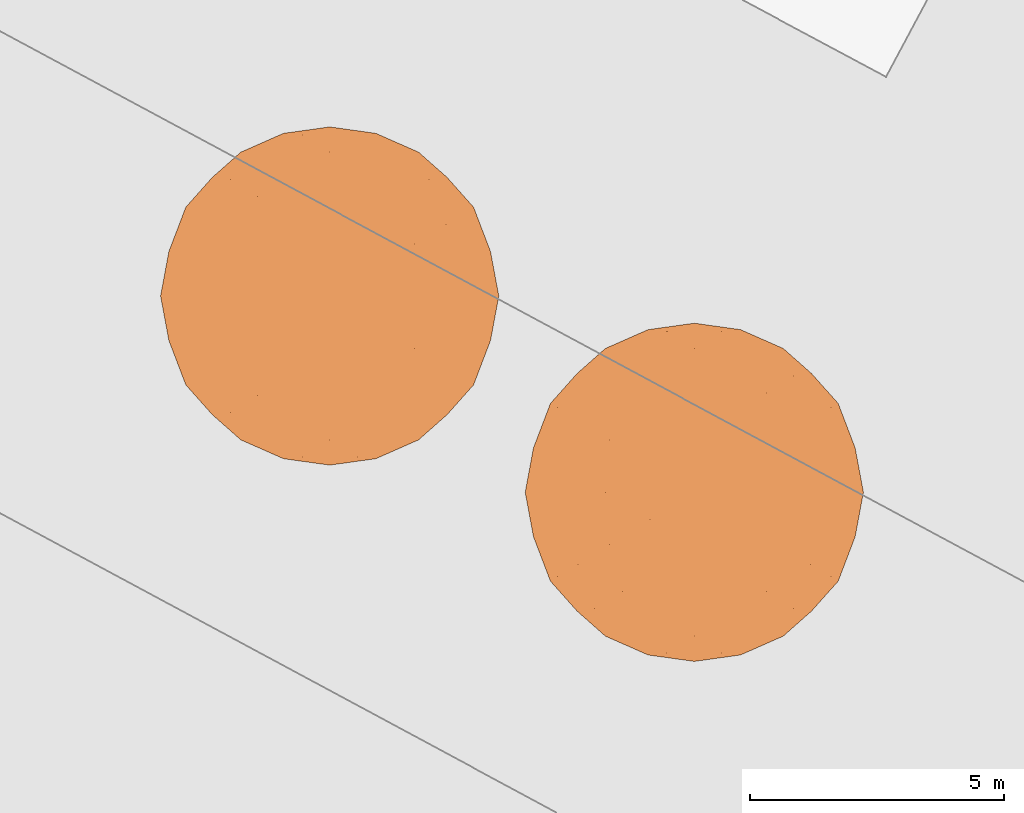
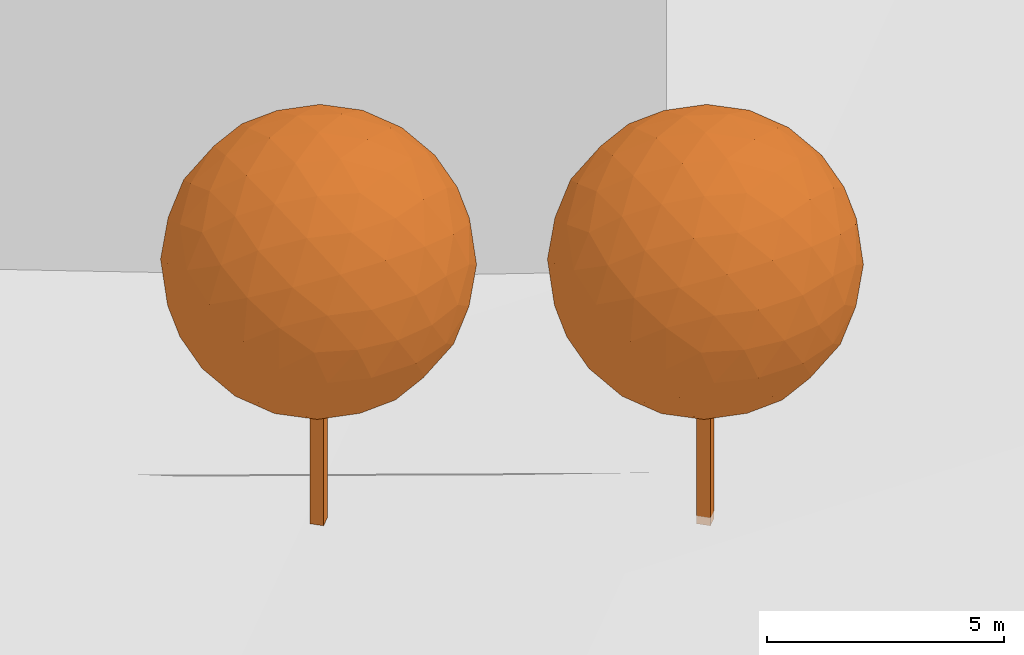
# Not in any storey, part 72 of 76: 2 proxies.
"""IFC2X3 model written with IfcOpenShell, lengths in metres."""

from ifc_helpers import new_model, si_unit, frame, origin_with_axes, place, context, subcontext, project, faceted_brep, element, save


model = new_model("IFC2X3")

# Units and contexts
model_context = context("Model", 3, precision=1e-05, world=origin_with_axes())
body_context = subcontext(model_context, "Body", "Model", "MODEL_VIEW")
ifc_project = project(units=[si_unit("AREAUNIT", "SQUARE_METRE"), si_unit("LENGTHUNIT", "METRE")], contexts=[model_context])

# Proxies
proxy_1_placement = place(None, frame((265.4333514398, 114.5949233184, 19.4436184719), z_axis=(0.0, 0.0, 1.0), x_axis=(1.0, 0.0, 0.0)))
element("IfcBuildingElementProxy", 1, at=proxy_1_placement, Name="Arbre TR2 CD66", ObjectType="NOTDEFINED", context=body_context, shape_type="Brep", body=[
    faceted_brep([(0.0, 0.2122065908, 0.0), (0.2122065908, 0.0, 0.0), (0.0, -0.2122065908, 0.0), (-0.2122065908, 0.0, 0.0), (0.0, -0.2122065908, 6.6666666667), (0.2122065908, 0.0, 6.6666666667), (0.0, 0.2122065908, 6.6666666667), (-0.2122065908, 0.0, 6.6666666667)], [[[0, 1, 2]], [[2, 3, 0]], [[4, 5, 6]], [[6, 7, 4]], [[4, 7, 2]], [[2, 7, 3]], [[7, 6, 3]], [[3, 6, 0]], [[5, 4, 1]], [[1, 4, 2]], [[6, 5, 0]], [[0, 5, 1]]]),
    faceted_brep([(-1.7524370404, 2.8355026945, 6.6666666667), (-2.3126015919, 2.3401548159, 7.2020734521), (-1.4462952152, 2.8755616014, 7.5329730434), (-2.6967233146, 1.6666666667, 7.6967233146), (-1.9592841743, 2.2939698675, 8.0844180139), (-1.0300566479, 2.6967233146, 8.3333333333), (-2.8755616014, 0.8663063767, 8.1129618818), (-2.2939698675, 1.4177513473, 8.625950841), (-2.8355026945, 0.0, 8.4191037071), (-2.3401548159, 0.5354067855, 8.9792682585), (-1.6666666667, 1.0300566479, 9.3633899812), (-1.4177513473, 1.9592841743, 8.9606365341), (-0.5354067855, 2.3126015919, 9.0068214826), (-0.8663063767, 1.4462952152, 9.5422282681), (0.0, 1.7524370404, 9.5021693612), (-0.9108884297, 3.2064611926, 6.6666666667), (-0.5415328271, 3.1701883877, 7.5428851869), (0.0, 3.3333333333, 6.6666666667), (0.0, 2.8355026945, 8.4191037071), (0.5354067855, 2.3126015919, 9.0068214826), (1.0300566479, 2.6967233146, 8.3333333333), (0.5415328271, 3.1701883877, 7.5428851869), (0.9108884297, 3.2064611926, 6.6666666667), (1.4462952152, 2.8755616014, 7.5329730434), (1.7524370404, 2.8355026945, 6.6666666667), (-1.4462952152, 2.8755616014, 5.80036029), (-0.5415328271, 3.1701883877, 5.7904481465), (-1.0300566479, 2.6967233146, 5.0), (0.5415328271, 3.1701883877, 5.7904481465), (1.4462952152, 2.8755616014, 5.80036029), (1.0300566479, 2.6967233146, 5.0), (0.0, 2.8355026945, 4.9142296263), (-0.5354067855, 2.3126015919, 4.3265118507), (0.5354067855, 2.3126015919, 4.3265118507), (0.0, 1.7524370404, 3.8311639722), (-2.3126015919, 2.3401548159, 6.1312598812), (-1.9592841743, 2.2939698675, 5.2489153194), (-2.6967233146, 1.6666666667, 5.6366100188), (-1.4177513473, 1.9592841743, 4.3726967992), (-0.8663063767, 1.4462952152, 3.7911050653), (-1.6666666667, 1.0300566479, 3.9699433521), (-2.2939698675, 1.4177513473, 4.7073824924), (-2.8755616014, 0.8663063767, 5.2203714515), (-2.3401548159, 0.5354067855, 4.3540650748), (-2.8355026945, 0.0, 4.9142296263), (-2.8355026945, 1.7524370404, 6.6666666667), (-3.1701883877, 0.8762185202, 6.1251338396), (-3.2064611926, 0.0, 5.755778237), (-3.3333333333, 0.0, 6.6666666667), (-3.1701883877, 0.8762185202, 7.2081994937), (-3.2064611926, 0.0, 7.5775550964), (2.3126015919, 2.3401548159, 7.2020734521), (1.9592841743, 2.2939698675, 8.0844180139), (2.6967233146, 1.6666666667, 7.6967233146), (1.4177513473, 1.9592841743, 8.9606365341), (0.8663063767, 1.4462952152, 9.5422282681), (1.6666666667, 1.0300566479, 9.3633899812), (2.2939698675, 1.4177513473, 8.625950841), (2.8755616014, 0.8663063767, 8.1129618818), (2.3401548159, 0.5354067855, 8.9792682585), (2.8355026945, 0.0, 8.4191037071), (0.0, 0.9108884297, 9.8731278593), (-0.8762185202, 0.5415328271, 9.8368550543), (0.0, 0.0, 10.0), (-1.7524370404, 0.0, 9.5021693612), (-2.3401548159, -0.5354067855, 8.9792682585), (-1.6666666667, -1.0300566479, 9.3633899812), (-0.8762185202, -0.5415328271, 9.8368550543), (0.0, -0.9108884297, 9.8731278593), (-0.8663063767, -1.4462952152, 9.5422282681), (0.0, -1.7524370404, 9.5021693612), (-2.8755616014, -0.8663063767, 8.1129618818), (-3.1701883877, -0.8762185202, 7.2081994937), (-2.6967233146, -1.6666666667, 7.6967233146), (-3.1701883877, -0.8762185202, 6.1251338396), (-2.8755616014, -0.8663063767, 5.2203714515), (-2.6967233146, -1.6666666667, 5.6366100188), (-2.8355026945, -1.7524370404, 6.6666666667), (-2.3126015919, -2.3401548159, 7.2020734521), (-2.3126015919, -2.3401548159, 6.1312598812), (-1.7524370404, -2.8355026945, 6.6666666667), (-2.3401548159, -0.5354067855, 4.3540650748), (-1.7524370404, 0.0, 3.8311639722), (-1.6666666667, -1.0300566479, 3.9699433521), (-0.8762185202, 0.5415328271, 3.496478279), (0.0, 0.9108884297, 3.4602054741), (0.0, 0.0, 3.3333333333), (-0.8762185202, -0.5415328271, 3.496478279), (-0.8663063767, -1.4462952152, 3.7911050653), (0.0, -0.9108884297, 3.4602054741), (0.0, -1.7524370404, 3.8311639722), (0.8663063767, 1.4462952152, 3.7911050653), (1.4177513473, 1.9592841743, 4.3726967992), (1.6666666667, 1.0300566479, 3.9699433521), (1.9592841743, 2.2939698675, 5.2489153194), (2.3126015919, 2.3401548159, 6.1312598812), (2.6967233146, 1.6666666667, 5.6366100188), (2.2939698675, 1.4177513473, 4.7073824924), (2.3401548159, 0.5354067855, 4.3540650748), (2.8755616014, 0.8663063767, 5.2203714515), (2.8355026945, 0.0, 4.9142296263), (1.7524370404, -2.8355026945, 6.6666666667), (2.3126015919, -2.3401548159, 7.2020734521), (1.4462952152, -2.8755616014, 7.5329730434), (2.6967233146, -1.6666666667, 7.6967233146), (1.9592841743, -2.2939698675, 8.0844180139), (1.0300566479, -2.6967233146, 8.3333333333), (2.8755616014, -0.8663063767, 8.1129618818), (2.2939698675, -1.4177513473, 8.625950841), (2.3401548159, -0.5354067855, 8.9792682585), (1.6666666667, -1.0300566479, 9.3633899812), (1.4177513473, -1.9592841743, 8.9606365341), (0.5354067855, -2.3126015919, 9.0068214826), (0.8663063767, -1.4462952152, 9.5422282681), (0.9108884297, -3.2064611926, 6.6666666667), (0.5415328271, -3.1701883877, 7.5428851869), (0.0, -3.3333333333, 6.6666666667), (0.0, -2.8355026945, 8.4191037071), (-0.5354067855, -2.3126015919, 9.0068214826), (-1.0300566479, -2.6967233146, 8.3333333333), (-0.5415328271, -3.1701883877, 7.5428851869), (-0.9108884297, -3.2064611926, 6.6666666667), (-1.4462952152, -2.8755616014, 7.5329730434), (1.4462952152, -2.8755616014, 5.80036029), (0.5415328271, -3.1701883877, 5.7904481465), (1.0300566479, -2.6967233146, 5.0), (-0.5415328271, -3.1701883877, 5.7904481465), (-1.4462952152, -2.8755616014, 5.80036029), (-1.0300566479, -2.6967233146, 5.0), (0.0, -2.8355026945, 4.9142296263), (0.5354067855, -2.3126015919, 4.3265118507), (-0.5354067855, -2.3126015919, 4.3265118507), (2.3126015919, -2.3401548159, 6.1312598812), (1.9592841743, -2.2939698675, 5.2489153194), (2.6967233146, -1.6666666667, 5.6366100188), (1.4177513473, -1.9592841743, 4.3726967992), (0.8663063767, -1.4462952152, 3.7911050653), (1.6666666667, -1.0300566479, 3.9699433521), (2.2939698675, -1.4177513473, 4.7073824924), (2.8755616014, -0.8663063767, 5.2203714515), (2.3401548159, -0.5354067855, 4.3540650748), (2.8355026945, -1.7524370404, 6.6666666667), (3.1701883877, -0.8762185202, 6.1251338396), (3.2064611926, 0.0, 5.755778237), (3.3333333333, 0.0, 6.6666666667), (3.1701883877, -0.8762185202, 7.2081994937), (3.2064611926, 0.0, 7.5775550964), (0.8762185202, -0.5415328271, 9.8368550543), (1.7524370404, 0.0, 9.5021693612), (0.8762185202, 0.5415328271, 9.8368550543), (-1.9592841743, -2.2939698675, 8.0844180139), (-1.4177513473, -1.9592841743, 8.9606365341), (-2.2939698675, -1.4177513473, 8.625950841), (-1.4177513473, -1.9592841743, 4.3726967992), (-1.9592841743, -2.2939698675, 5.2489153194), (-2.2939698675, -1.4177513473, 4.7073824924), (1.7524370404, 0.0, 3.8311639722), (0.8762185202, -0.5415328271, 3.496478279), (0.8762185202, 0.5415328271, 3.496478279), (3.1701883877, 0.8762185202, 7.2081994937), (3.1701883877, 0.8762185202, 6.1251338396), (2.8355026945, 1.7524370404, 6.6666666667)], [[[0, 1, 2]], [[1, 3, 4]], [[2, 4, 5]], [[1, 4, 2]], [[3, 6, 7]], [[6, 8, 9]], [[7, 9, 10]], [[6, 9, 7]], [[5, 11, 12]], [[11, 10, 13]], [[12, 13, 14]], [[11, 13, 12]], [[3, 7, 4]], [[7, 10, 11]], [[4, 11, 5]], [[7, 11, 4]], [[0, 2, 15]], [[2, 5, 16]], [[15, 16, 17]], [[2, 16, 15]], [[5, 12, 18]], [[12, 14, 19]], [[18, 19, 20]], [[12, 19, 18]], [[17, 21, 22]], [[21, 20, 23]], [[22, 23, 24]], [[21, 23, 22]], [[5, 18, 16]], [[18, 20, 21]], [[16, 21, 17]], [[18, 21, 16]], [[0, 15, 25]], [[15, 17, 26]], [[25, 26, 27]], [[15, 26, 25]], [[17, 22, 28]], [[22, 24, 29]], [[28, 29, 30]], [[22, 29, 28]], [[27, 31, 32]], [[31, 30, 33]], [[32, 33, 34]], [[31, 33, 32]], [[17, 28, 26]], [[28, 30, 31]], [[26, 31, 27]], [[28, 31, 26]], [[0, 25, 35]], [[25, 27, 36]], [[35, 36, 37]], [[25, 36, 35]], [[27, 32, 38]], [[32, 34, 39]], [[38, 39, 40]], [[32, 39, 38]], [[37, 41, 42]], [[41, 40, 43]], [[42, 43, 44]], [[41, 43, 42]], [[27, 38, 36]], [[38, 40, 41]], [[36, 41, 37]], [[38, 41, 36]], [[0, 35, 1]], [[35, 37, 45]], [[1, 45, 3]], [[35, 45, 1]], [[37, 42, 46]], [[42, 44, 47]], [[46, 47, 48]], [[42, 47, 46]], [[3, 49, 6]], [[49, 48, 50]], [[6, 50, 8]], [[49, 50, 6]], [[37, 46, 45]], [[46, 48, 49]], [[45, 49, 3]], [[46, 49, 45]], [[24, 23, 51]], [[23, 20, 52]], [[51, 52, 53]], [[23, 52, 51]], [[20, 19, 54]], [[19, 14, 55]], [[54, 55, 56]], [[19, 55, 54]], [[53, 57, 58]], [[57, 56, 59]], [[58, 59, 60]], [[57, 59, 58]], [[20, 54, 52]], [[54, 56, 57]], [[52, 57, 53]], [[54, 57, 52]], [[14, 13, 61]], [[13, 10, 62]], [[61, 62, 63]], [[13, 62, 61]], [[10, 9, 64]], [[9, 8, 65]], [[64, 65, 66]], [[9, 65, 64]], [[63, 67, 68]], [[67, 66, 69]], [[68, 69, 70]], [[67, 69, 68]], [[10, 64, 62]], [[64, 66, 67]], [[62, 67, 63]], [[64, 67, 62]], [[8, 50, 71]], [[50, 48, 72]], [[71, 72, 73]], [[50, 72, 71]], [[48, 47, 74]], [[47, 44, 75]], [[74, 75, 76]], [[47, 75, 74]], [[73, 77, 78]], [[77, 76, 79]], [[78, 79, 80]], [[77, 79, 78]], [[48, 74, 72]], [[74, 76, 77]], [[72, 77, 73]], [[74, 77, 72]], [[44, 43, 81]], [[43, 40, 82]], [[81, 82, 83]], [[43, 82, 81]], [[40, 39, 84]], [[39, 34, 85]], [[84, 85, 86]], [[39, 85, 84]], [[83, 87, 88]], [[87, 86, 89]], [[88, 89, 90]], [[87, 89, 88]], [[40, 84, 82]], [[84, 86, 87]], [[82, 87, 83]], [[84, 87, 82]], [[34, 33, 91]], [[33, 30, 92]], [[91, 92, 93]], [[33, 92, 91]], [[30, 29, 94]], [[29, 24, 95]], [[94, 95, 96]], [[29, 95, 94]], [[93, 97, 98]], [[97, 96, 99]], [[98, 99, 100]], [[97, 99, 98]], [[30, 94, 92]], [[94, 96, 97]], [[92, 97, 93]], [[94, 97, 92]], [[101, 102, 103]], [[102, 104, 105]], [[103, 105, 106]], [[102, 105, 103]], [[104, 107, 108]], [[107, 60, 109]], [[108, 109, 110]], [[107, 109, 108]], [[106, 111, 112]], [[111, 110, 113]], [[112, 113, 70]], [[111, 113, 112]], [[104, 108, 105]], [[108, 110, 111]], [[105, 111, 106]], [[108, 111, 105]], [[101, 103, 114]], [[103, 106, 115]], [[114, 115, 116]], [[103, 115, 114]], [[106, 112, 117]], [[112, 70, 118]], [[117, 118, 119]], [[112, 118, 117]], [[116, 120, 121]], [[120, 119, 122]], [[121, 122, 80]], [[120, 122, 121]], [[106, 117, 115]], [[117, 119, 120]], [[115, 120, 116]], [[117, 120, 115]], [[101, 114, 123]], [[114, 116, 124]], [[123, 124, 125]], [[114, 124, 123]], [[116, 121, 126]], [[121, 80, 127]], [[126, 127, 128]], [[121, 127, 126]], [[125, 129, 130]], [[129, 128, 131]], [[130, 131, 90]], [[129, 131, 130]], [[116, 126, 124]], [[126, 128, 129]], [[124, 129, 125]], [[126, 129, 124]], [[101, 123, 132]], [[123, 125, 133]], [[132, 133, 134]], [[123, 133, 132]], [[125, 130, 135]], [[130, 90, 136]], [[135, 136, 137]], [[130, 136, 135]], [[134, 138, 139]], [[138, 137, 140]], [[139, 140, 100]], [[138, 140, 139]], [[125, 135, 133]], [[135, 137, 138]], [[133, 138, 134]], [[135, 138, 133]], [[101, 132, 102]], [[132, 134, 141]], [[102, 141, 104]], [[132, 141, 102]], [[134, 139, 142]], [[139, 100, 143]], [[142, 143, 144]], [[139, 143, 142]], [[104, 145, 107]], [[145, 144, 146]], [[107, 146, 60]], [[145, 146, 107]], [[134, 142, 141]], [[142, 144, 145]], [[141, 145, 104]], [[142, 145, 141]], [[70, 113, 68]], [[113, 110, 147]], [[68, 147, 63]], [[113, 147, 68]], [[110, 109, 148]], [[109, 60, 59]], [[148, 59, 56]], [[109, 59, 148]], [[63, 149, 61]], [[149, 56, 55]], [[61, 55, 14]], [[149, 55, 61]], [[110, 148, 147]], [[148, 56, 149]], [[147, 149, 63]], [[148, 149, 147]], [[80, 122, 78]], [[122, 119, 150]], [[78, 150, 73]], [[122, 150, 78]], [[119, 118, 151]], [[118, 70, 69]], [[151, 69, 66]], [[118, 69, 151]], [[73, 152, 71]], [[152, 66, 65]], [[71, 65, 8]], [[152, 65, 71]], [[119, 151, 150]], [[151, 66, 152]], [[150, 152, 73]], [[151, 152, 150]], [[90, 131, 88]], [[131, 128, 153]], [[88, 153, 83]], [[131, 153, 88]], [[128, 127, 154]], [[127, 80, 79]], [[154, 79, 76]], [[127, 79, 154]], [[83, 155, 81]], [[155, 76, 75]], [[81, 75, 44]], [[155, 75, 81]], [[128, 154, 153]], [[154, 76, 155]], [[153, 155, 83]], [[154, 155, 153]], [[100, 140, 98]], [[140, 137, 156]], [[98, 156, 93]], [[140, 156, 98]], [[137, 136, 157]], [[136, 90, 89]], [[157, 89, 86]], [[136, 89, 157]], [[93, 158, 91]], [[158, 86, 85]], [[91, 85, 34]], [[158, 85, 91]], [[137, 157, 156]], [[157, 86, 158]], [[156, 158, 93]], [[157, 158, 156]], [[60, 146, 58]], [[146, 144, 159]], [[58, 159, 53]], [[146, 159, 58]], [[144, 143, 160]], [[143, 100, 99]], [[160, 99, 96]], [[143, 99, 160]], [[53, 161, 51]], [[161, 96, 95]], [[51, 95, 24]], [[161, 95, 51]], [[144, 160, 159]], [[160, 96, 161]], [[159, 161, 53]], [[160, 161, 159]]]),
])
proxy_2_placement = place(None, frame((272.6199640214, 110.7261496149, 19.2719039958), z_axis=(0.0, 0.0, 1.0), x_axis=(1.0, 0.0, 0.0)))
element("IfcBuildingElementProxy", 2, at=proxy_2_placement, Name="Arbre TR2 CD66", ObjectType="NOTDEFINED", context=body_context, shape_type="Brep", body=[
    faceted_brep([(0.0, 0.2122065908, 0.0), (0.2122065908, 0.0, 0.0), (0.0, -0.2122065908, 0.0), (-0.2122065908, 0.0, 0.0), (0.0, -0.2122065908, 6.6666666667), (0.2122065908, 0.0, 6.6666666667), (0.0, 0.2122065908, 6.6666666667), (-0.2122065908, 0.0, 6.6666666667)], [[[0, 1, 2]], [[2, 3, 0]], [[4, 5, 6]], [[6, 7, 4]], [[4, 7, 2]], [[2, 7, 3]], [[7, 6, 3]], [[3, 6, 0]], [[5, 4, 1]], [[1, 4, 2]], [[6, 5, 0]], [[0, 5, 1]]]),
    faceted_brep([(-1.7524370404, 2.8355026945, 6.6666666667), (-2.3126015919, 2.3401548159, 7.2020734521), (-1.4462952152, 2.8755616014, 7.5329730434), (-2.6967233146, 1.6666666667, 7.6967233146), (-1.9592841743, 2.2939698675, 8.0844180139), (-1.0300566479, 2.6967233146, 8.3333333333), (-2.8755616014, 0.8663063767, 8.1129618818), (-2.2939698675, 1.4177513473, 8.625950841), (-2.8355026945, 0.0, 8.4191037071), (-2.3401548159, 0.5354067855, 8.9792682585), (-1.6666666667, 1.0300566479, 9.3633899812), (-1.4177513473, 1.9592841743, 8.9606365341), (-0.5354067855, 2.3126015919, 9.0068214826), (-0.8663063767, 1.4462952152, 9.5422282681), (0.0, 1.7524370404, 9.5021693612), (-0.9108884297, 3.2064611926, 6.6666666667), (-0.5415328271, 3.1701883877, 7.5428851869), (0.0, 3.3333333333, 6.6666666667), (0.0, 2.8355026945, 8.4191037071), (0.5354067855, 2.3126015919, 9.0068214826), (1.0300566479, 2.6967233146, 8.3333333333), (0.5415328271, 3.1701883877, 7.5428851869), (0.9108884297, 3.2064611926, 6.6666666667), (1.4462952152, 2.8755616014, 7.5329730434), (1.7524370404, 2.8355026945, 6.6666666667), (-1.4462952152, 2.8755616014, 5.80036029), (-0.5415328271, 3.1701883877, 5.7904481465), (-1.0300566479, 2.6967233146, 5.0), (0.5415328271, 3.1701883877, 5.7904481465), (1.4462952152, 2.8755616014, 5.80036029), (1.0300566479, 2.6967233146, 5.0), (0.0, 2.8355026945, 4.9142296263), (-0.5354067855, 2.3126015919, 4.3265118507), (0.5354067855, 2.3126015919, 4.3265118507), (0.0, 1.7524370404, 3.8311639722), (-2.3126015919, 2.3401548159, 6.1312598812), (-1.9592841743, 2.2939698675, 5.2489153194), (-2.6967233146, 1.6666666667, 5.6366100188), (-1.4177513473, 1.9592841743, 4.3726967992), (-0.8663063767, 1.4462952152, 3.7911050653), (-1.6666666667, 1.0300566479, 3.9699433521), (-2.2939698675, 1.4177513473, 4.7073824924), (-2.8755616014, 0.8663063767, 5.2203714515), (-2.3401548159, 0.5354067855, 4.3540650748), (-2.8355026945, 0.0, 4.9142296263), (-2.8355026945, 1.7524370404, 6.6666666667), (-3.1701883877, 0.8762185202, 6.1251338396), (-3.2064611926, 0.0, 5.755778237), (-3.3333333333, 0.0, 6.6666666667), (-3.1701883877, 0.8762185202, 7.2081994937), (-3.2064611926, 0.0, 7.5775550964), (2.3126015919, 2.3401548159, 7.2020734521), (1.9592841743, 2.2939698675, 8.0844180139), (2.6967233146, 1.6666666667, 7.6967233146), (1.4177513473, 1.9592841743, 8.9606365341), (0.8663063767, 1.4462952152, 9.5422282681), (1.6666666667, 1.0300566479, 9.3633899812), (2.2939698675, 1.4177513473, 8.625950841), (2.8755616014, 0.8663063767, 8.1129618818), (2.3401548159, 0.5354067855, 8.9792682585), (2.8355026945, 0.0, 8.4191037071), (0.0, 0.9108884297, 9.8731278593), (-0.8762185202, 0.5415328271, 9.8368550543), (0.0, 0.0, 10.0), (-1.7524370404, 0.0, 9.5021693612), (-2.3401548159, -0.5354067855, 8.9792682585), (-1.6666666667, -1.0300566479, 9.3633899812), (-0.8762185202, -0.5415328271, 9.8368550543), (0.0, -0.9108884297, 9.8731278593), (-0.8663063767, -1.4462952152, 9.5422282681), (0.0, -1.7524370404, 9.5021693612), (-2.8755616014, -0.8663063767, 8.1129618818), (-3.1701883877, -0.8762185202, 7.2081994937), (-2.6967233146, -1.6666666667, 7.6967233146), (-3.1701883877, -0.8762185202, 6.1251338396), (-2.8755616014, -0.8663063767, 5.2203714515), (-2.6967233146, -1.6666666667, 5.6366100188), (-2.8355026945, -1.7524370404, 6.6666666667), (-2.3126015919, -2.3401548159, 7.2020734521), (-2.3126015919, -2.3401548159, 6.1312598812), (-1.7524370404, -2.8355026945, 6.6666666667), (-2.3401548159, -0.5354067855, 4.3540650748), (-1.7524370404, 0.0, 3.8311639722), (-1.6666666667, -1.0300566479, 3.9699433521), (-0.8762185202, 0.5415328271, 3.496478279), (0.0, 0.9108884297, 3.4602054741), (0.0, 0.0, 3.3333333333), (-0.8762185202, -0.5415328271, 3.496478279), (-0.8663063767, -1.4462952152, 3.7911050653), (0.0, -0.9108884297, 3.4602054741), (0.0, -1.7524370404, 3.8311639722), (0.8663063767, 1.4462952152, 3.7911050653), (1.4177513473, 1.9592841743, 4.3726967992), (1.6666666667, 1.0300566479, 3.9699433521), (1.9592841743, 2.2939698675, 5.2489153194), (2.3126015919, 2.3401548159, 6.1312598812), (2.6967233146, 1.6666666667, 5.6366100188), (2.2939698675, 1.4177513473, 4.7073824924), (2.3401548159, 0.5354067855, 4.3540650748), (2.8755616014, 0.8663063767, 5.2203714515), (2.8355026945, 0.0, 4.9142296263), (1.7524370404, -2.8355026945, 6.6666666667), (2.3126015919, -2.3401548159, 7.2020734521), (1.4462952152, -2.8755616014, 7.5329730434), (2.6967233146, -1.6666666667, 7.6967233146), (1.9592841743, -2.2939698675, 8.0844180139), (1.0300566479, -2.6967233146, 8.3333333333), (2.8755616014, -0.8663063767, 8.1129618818), (2.2939698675, -1.4177513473, 8.625950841), (2.3401548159, -0.5354067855, 8.9792682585), (1.6666666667, -1.0300566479, 9.3633899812), (1.4177513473, -1.9592841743, 8.9606365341), (0.5354067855, -2.3126015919, 9.0068214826), (0.8663063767, -1.4462952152, 9.5422282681), (0.9108884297, -3.2064611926, 6.6666666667), (0.5415328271, -3.1701883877, 7.5428851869), (0.0, -3.3333333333, 6.6666666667), (0.0, -2.8355026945, 8.4191037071), (-0.5354067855, -2.3126015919, 9.0068214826), (-1.0300566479, -2.6967233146, 8.3333333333), (-0.5415328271, -3.1701883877, 7.5428851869), (-0.9108884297, -3.2064611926, 6.6666666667), (-1.4462952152, -2.8755616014, 7.5329730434), (1.4462952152, -2.8755616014, 5.80036029), (0.5415328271, -3.1701883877, 5.7904481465), (1.0300566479, -2.6967233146, 5.0), (-0.5415328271, -3.1701883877, 5.7904481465), (-1.4462952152, -2.8755616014, 5.80036029), (-1.0300566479, -2.6967233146, 5.0), (0.0, -2.8355026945, 4.9142296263), (0.5354067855, -2.3126015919, 4.3265118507), (-0.5354067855, -2.3126015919, 4.3265118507), (2.3126015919, -2.3401548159, 6.1312598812), (1.9592841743, -2.2939698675, 5.2489153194), (2.6967233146, -1.6666666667, 5.6366100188), (1.4177513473, -1.9592841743, 4.3726967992), (0.8663063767, -1.4462952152, 3.7911050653), (1.6666666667, -1.0300566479, 3.9699433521), (2.2939698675, -1.4177513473, 4.7073824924), (2.8755616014, -0.8663063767, 5.2203714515), (2.3401548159, -0.5354067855, 4.3540650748), (2.8355026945, -1.7524370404, 6.6666666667), (3.1701883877, -0.8762185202, 6.1251338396), (3.2064611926, 0.0, 5.755778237), (3.3333333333, 0.0, 6.6666666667), (3.1701883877, -0.8762185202, 7.2081994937), (3.2064611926, 0.0, 7.5775550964), (0.8762185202, -0.5415328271, 9.8368550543), (1.7524370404, 0.0, 9.5021693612), (0.8762185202, 0.5415328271, 9.8368550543), (-1.9592841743, -2.2939698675, 8.0844180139), (-1.4177513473, -1.9592841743, 8.9606365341), (-2.2939698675, -1.4177513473, 8.625950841), (-1.4177513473, -1.9592841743, 4.3726967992), (-1.9592841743, -2.2939698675, 5.2489153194), (-2.2939698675, -1.4177513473, 4.7073824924), (1.7524370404, 0.0, 3.8311639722), (0.8762185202, -0.5415328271, 3.496478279), (0.8762185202, 0.5415328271, 3.496478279), (3.1701883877, 0.8762185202, 7.2081994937), (3.1701883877, 0.8762185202, 6.1251338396), (2.8355026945, 1.7524370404, 6.6666666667)], [[[0, 1, 2]], [[1, 3, 4]], [[2, 4, 5]], [[1, 4, 2]], [[3, 6, 7]], [[6, 8, 9]], [[7, 9, 10]], [[6, 9, 7]], [[5, 11, 12]], [[11, 10, 13]], [[12, 13, 14]], [[11, 13, 12]], [[3, 7, 4]], [[7, 10, 11]], [[4, 11, 5]], [[7, 11, 4]], [[0, 2, 15]], [[2, 5, 16]], [[15, 16, 17]], [[2, 16, 15]], [[5, 12, 18]], [[12, 14, 19]], [[18, 19, 20]], [[12, 19, 18]], [[17, 21, 22]], [[21, 20, 23]], [[22, 23, 24]], [[21, 23, 22]], [[5, 18, 16]], [[18, 20, 21]], [[16, 21, 17]], [[18, 21, 16]], [[0, 15, 25]], [[15, 17, 26]], [[25, 26, 27]], [[15, 26, 25]], [[17, 22, 28]], [[22, 24, 29]], [[28, 29, 30]], [[22, 29, 28]], [[27, 31, 32]], [[31, 30, 33]], [[32, 33, 34]], [[31, 33, 32]], [[17, 28, 26]], [[28, 30, 31]], [[26, 31, 27]], [[28, 31, 26]], [[0, 25, 35]], [[25, 27, 36]], [[35, 36, 37]], [[25, 36, 35]], [[27, 32, 38]], [[32, 34, 39]], [[38, 39, 40]], [[32, 39, 38]], [[37, 41, 42]], [[41, 40, 43]], [[42, 43, 44]], [[41, 43, 42]], [[27, 38, 36]], [[38, 40, 41]], [[36, 41, 37]], [[38, 41, 36]], [[0, 35, 1]], [[35, 37, 45]], [[1, 45, 3]], [[35, 45, 1]], [[37, 42, 46]], [[42, 44, 47]], [[46, 47, 48]], [[42, 47, 46]], [[3, 49, 6]], [[49, 48, 50]], [[6, 50, 8]], [[49, 50, 6]], [[37, 46, 45]], [[46, 48, 49]], [[45, 49, 3]], [[46, 49, 45]], [[24, 23, 51]], [[23, 20, 52]], [[51, 52, 53]], [[23, 52, 51]], [[20, 19, 54]], [[19, 14, 55]], [[54, 55, 56]], [[19, 55, 54]], [[53, 57, 58]], [[57, 56, 59]], [[58, 59, 60]], [[57, 59, 58]], [[20, 54, 52]], [[54, 56, 57]], [[52, 57, 53]], [[54, 57, 52]], [[14, 13, 61]], [[13, 10, 62]], [[61, 62, 63]], [[13, 62, 61]], [[10, 9, 64]], [[9, 8, 65]], [[64, 65, 66]], [[9, 65, 64]], [[63, 67, 68]], [[67, 66, 69]], [[68, 69, 70]], [[67, 69, 68]], [[10, 64, 62]], [[64, 66, 67]], [[62, 67, 63]], [[64, 67, 62]], [[8, 50, 71]], [[50, 48, 72]], [[71, 72, 73]], [[50, 72, 71]], [[48, 47, 74]], [[47, 44, 75]], [[74, 75, 76]], [[47, 75, 74]], [[73, 77, 78]], [[77, 76, 79]], [[78, 79, 80]], [[77, 79, 78]], [[48, 74, 72]], [[74, 76, 77]], [[72, 77, 73]], [[74, 77, 72]], [[44, 43, 81]], [[43, 40, 82]], [[81, 82, 83]], [[43, 82, 81]], [[40, 39, 84]], [[39, 34, 85]], [[84, 85, 86]], [[39, 85, 84]], [[83, 87, 88]], [[87, 86, 89]], [[88, 89, 90]], [[87, 89, 88]], [[40, 84, 82]], [[84, 86, 87]], [[82, 87, 83]], [[84, 87, 82]], [[34, 33, 91]], [[33, 30, 92]], [[91, 92, 93]], [[33, 92, 91]], [[30, 29, 94]], [[29, 24, 95]], [[94, 95, 96]], [[29, 95, 94]], [[93, 97, 98]], [[97, 96, 99]], [[98, 99, 100]], [[97, 99, 98]], [[30, 94, 92]], [[94, 96, 97]], [[92, 97, 93]], [[94, 97, 92]], [[101, 102, 103]], [[102, 104, 105]], [[103, 105, 106]], [[102, 105, 103]], [[104, 107, 108]], [[107, 60, 109]], [[108, 109, 110]], [[107, 109, 108]], [[106, 111, 112]], [[111, 110, 113]], [[112, 113, 70]], [[111, 113, 112]], [[104, 108, 105]], [[108, 110, 111]], [[105, 111, 106]], [[108, 111, 105]], [[101, 103, 114]], [[103, 106, 115]], [[114, 115, 116]], [[103, 115, 114]], [[106, 112, 117]], [[112, 70, 118]], [[117, 118, 119]], [[112, 118, 117]], [[116, 120, 121]], [[120, 119, 122]], [[121, 122, 80]], [[120, 122, 121]], [[106, 117, 115]], [[117, 119, 120]], [[115, 120, 116]], [[117, 120, 115]], [[101, 114, 123]], [[114, 116, 124]], [[123, 124, 125]], [[114, 124, 123]], [[116, 121, 126]], [[121, 80, 127]], [[126, 127, 128]], [[121, 127, 126]], [[125, 129, 130]], [[129, 128, 131]], [[130, 131, 90]], [[129, 131, 130]], [[116, 126, 124]], [[126, 128, 129]], [[124, 129, 125]], [[126, 129, 124]], [[101, 123, 132]], [[123, 125, 133]], [[132, 133, 134]], [[123, 133, 132]], [[125, 130, 135]], [[130, 90, 136]], [[135, 136, 137]], [[130, 136, 135]], [[134, 138, 139]], [[138, 137, 140]], [[139, 140, 100]], [[138, 140, 139]], [[125, 135, 133]], [[135, 137, 138]], [[133, 138, 134]], [[135, 138, 133]], [[101, 132, 102]], [[132, 134, 141]], [[102, 141, 104]], [[132, 141, 102]], [[134, 139, 142]], [[139, 100, 143]], [[142, 143, 144]], [[139, 143, 142]], [[104, 145, 107]], [[145, 144, 146]], [[107, 146, 60]], [[145, 146, 107]], [[134, 142, 141]], [[142, 144, 145]], [[141, 145, 104]], [[142, 145, 141]], [[70, 113, 68]], [[113, 110, 147]], [[68, 147, 63]], [[113, 147, 68]], [[110, 109, 148]], [[109, 60, 59]], [[148, 59, 56]], [[109, 59, 148]], [[63, 149, 61]], [[149, 56, 55]], [[61, 55, 14]], [[149, 55, 61]], [[110, 148, 147]], [[148, 56, 149]], [[147, 149, 63]], [[148, 149, 147]], [[80, 122, 78]], [[122, 119, 150]], [[78, 150, 73]], [[122, 150, 78]], [[119, 118, 151]], [[118, 70, 69]], [[151, 69, 66]], [[118, 69, 151]], [[73, 152, 71]], [[152, 66, 65]], [[71, 65, 8]], [[152, 65, 71]], [[119, 151, 150]], [[151, 66, 152]], [[150, 152, 73]], [[151, 152, 150]], [[90, 131, 88]], [[131, 128, 153]], [[88, 153, 83]], [[131, 153, 88]], [[128, 127, 154]], [[127, 80, 79]], [[154, 79, 76]], [[127, 79, 154]], [[83, 155, 81]], [[155, 76, 75]], [[81, 75, 44]], [[155, 75, 81]], [[128, 154, 153]], [[154, 76, 155]], [[153, 155, 83]], [[154, 155, 153]], [[100, 140, 98]], [[140, 137, 156]], [[98, 156, 93]], [[140, 156, 98]], [[137, 136, 157]], [[136, 90, 89]], [[157, 89, 86]], [[136, 89, 157]], [[93, 158, 91]], [[158, 86, 85]], [[91, 85, 34]], [[158, 85, 91]], [[137, 157, 156]], [[157, 86, 158]], [[156, 158, 93]], [[157, 158, 156]], [[60, 146, 58]], [[146, 144, 159]], [[58, 159, 53]], [[146, 159, 58]], [[144, 143, 160]], [[143, 100, 99]], [[160, 99, 96]], [[143, 99, 160]], [[53, 161, 51]], [[161, 96, 95]], [[51, 95, 24]], [[161, 95, 51]], [[144, 160, 159]], [[160, 96, 161]], [[159, 161, 53]], [[160, 161, 159]]]),
])

save(model, "model.ifc")
